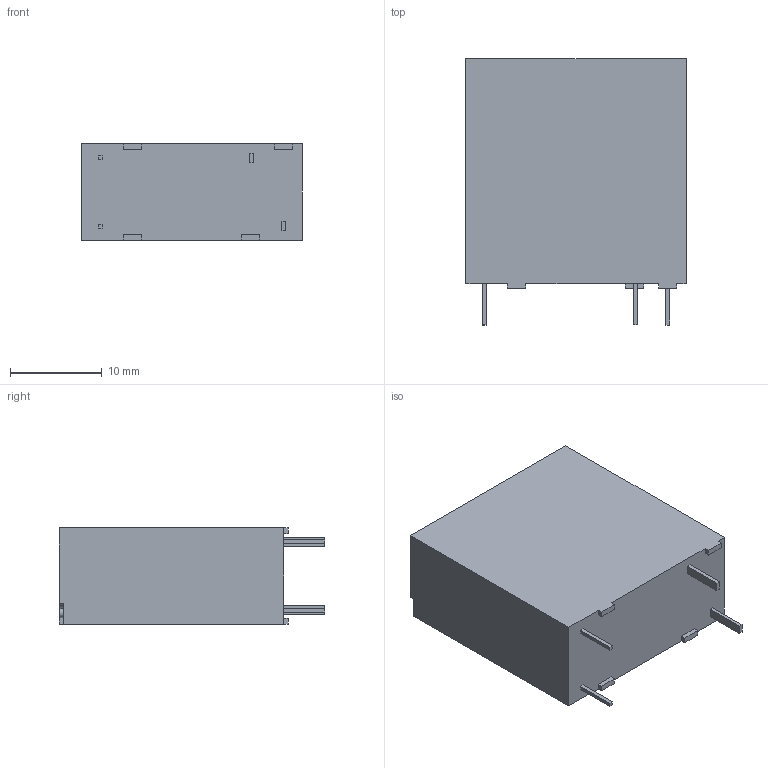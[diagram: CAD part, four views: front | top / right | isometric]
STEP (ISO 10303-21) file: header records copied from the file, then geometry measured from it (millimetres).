
FILE_DESCRIPTION (( 'STEP AP214' ), '1' );
FILE_NAME ('G5PZ_1A_E.step', '2020-02-27T05:03:15', ( 'OSMC1.0 ' ), ( ' ' ), 'SwSTEP 2.0', 'SolidWorks 2002025', '' );
FILE_SCHEMA (( 'AUTOMOTIVE_DESIGN' ));
Length unit declared in the file: millimetre
Products named in the file (1): G5PZ_1A_E
Bounding box: 24 x 29 x 10.5 mm (x, y, z)
Volume: 6179.5 mm3; surface area: 2245.6 mm2
Topology: 1 solids, 1 shells, 49 faces, 126 edges, 84 vertices
Faces by surface type: plane 46, cylinder 3
Entity records: 1709 total; most frequent: CARTESIAN_POINT 260, ORIENTED_EDGE 252, DIRECTION 232, EDGE_CURVE 126, LINE 120, VECTOR 120, VERTEX_POINT 84, AXIS2_PLACEMENT_3D 56
